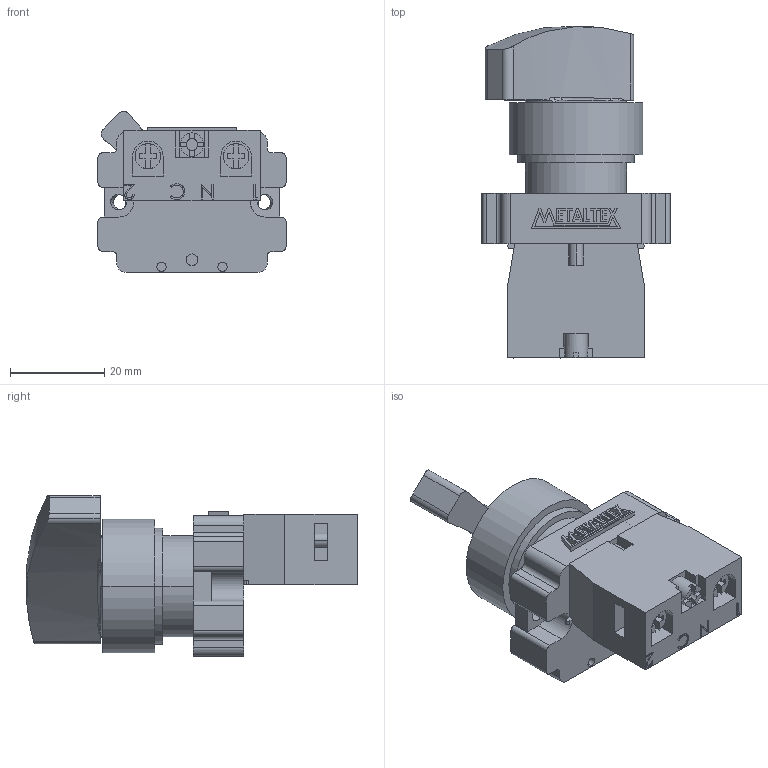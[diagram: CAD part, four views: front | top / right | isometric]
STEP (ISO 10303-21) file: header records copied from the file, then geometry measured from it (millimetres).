
FILE_DESCRIPTION (( 'STEP AP203' ), '1' );
FILE_NAME ('M20SL2-B-1A.STEP', '2018-01-17T14:20:43', ( '' ), ( '' ), 'SwSTEP 2.0', 'SolidWorks 2012', '' );
FILE_SCHEMA (( 'CONFIG_CONTROL_DESIGN' ));
Length unit declared in the file: millimetre
Products named in the file (4): M20SL2-B-1A; METALTEX 18,98; M20-1B; M20SL2
Assembly tree (3 placements, depth 2):
  M20SL2-B-1A
    M20SL2
    M20-1B
    METALTEX 18,98
Bounding box: 40 x 70.6 x 34.23 mm (x, y, z)
Volume: 34500.6 mm3; surface area: 12686.4 mm2
Topology: 9 solids, 9 shells, 374 faces, 981 edges, 651 vertices
Faces by surface type: plane 260, cylinder 78, bspline 30, torus 6
Entity records: 13792 total; most frequent: CARTESIAN_POINT 4210, ORIENTED_EDGE 1962, DIRECTION 1791, EDGE_CURVE 981, VECTOR 701, LINE 701, VERTEX_POINT 651, AXIS2_PLACEMENT_3D 545
